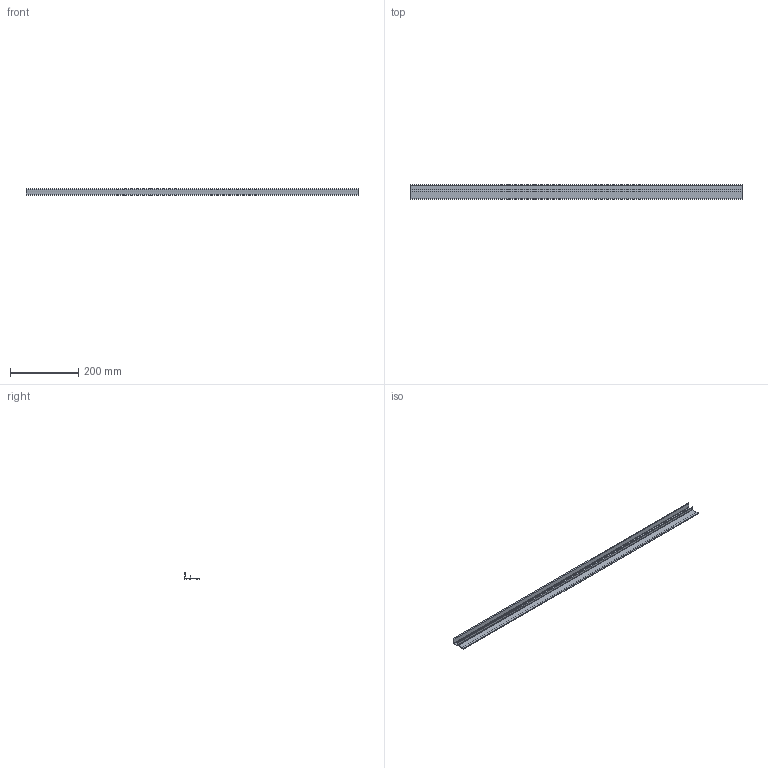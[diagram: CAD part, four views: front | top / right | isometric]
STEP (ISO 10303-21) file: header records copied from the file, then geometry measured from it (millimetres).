
FILE_DESCRIPTION( ( 'STEP AP214' ), '1' );
FILE_NAME( 'C:/Users/KOSH/Desktop/Same as task/Sliding folding/1058464.stp', '2021-06-30T06:27:37', ( '' ), ( '' ), ' ', 'PARTsolutions', ' ' );
FILE_SCHEMA( ( 'AUTOMOTIVE_DESIGN { 1 0 10303 214 1 1 1 1 }' ) );
Length unit declared in the file: millimetre
Products named in the file (1): _1058464
Bounding box: 975 x 42 x 18 mm (x, y, z)
Volume: 110860.9 mm3; surface area: 134893.2 mm2
Topology: 1 solids, 1 shells, 24 faces, 66 edges, 44 vertices
Faces by surface type: plane 18, cylinder 6
Entity records: 970 total; most frequent: CARTESIAN_POINT 135, ORIENTED_EDGE 132, DIRECTION 128, EDGE_CURVE 66, LINE 54, VECTOR 54, VERTEX_POINT 44, AXIS2_PLACEMENT_3D 37
